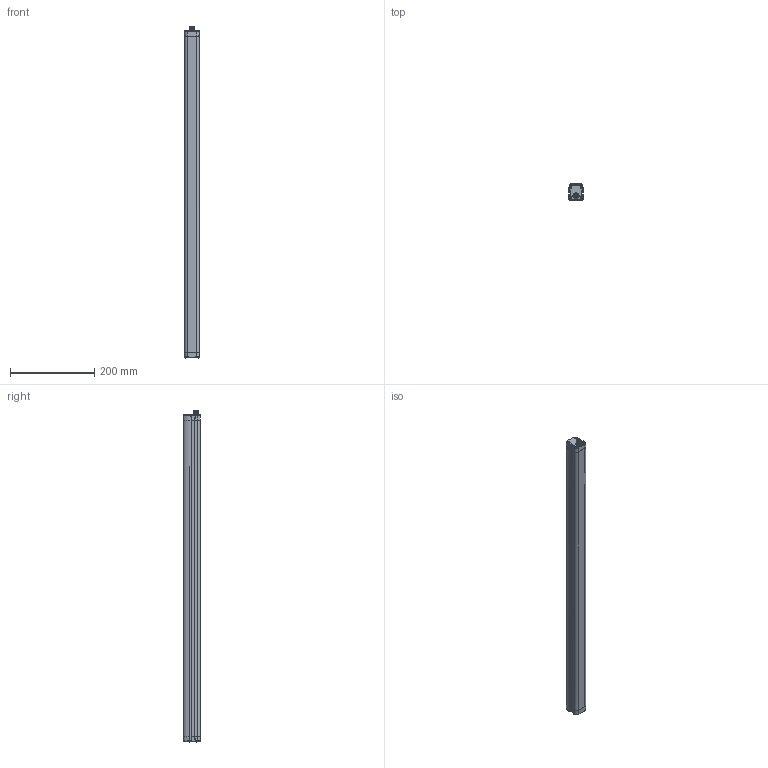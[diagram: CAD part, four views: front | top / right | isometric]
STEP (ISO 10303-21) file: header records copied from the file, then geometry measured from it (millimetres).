
FILE_DESCRIPTION(/* description */ (''),/* implementation_level */ '2;1');
FILE_NAME(/* name */ 'DSD-0984 DS2-05-07-075-JE _TX_STP.stp',/* time_stamp */ '2020-07-02T12:15:15+02:00',/* author */ (''),/* organization */ (''),/* preprocessor_version */ 'ST-DEVELOPER v16.7',/* originating_system */ 'SIEMENS PLM Software NX 12.0',/* authorisation */ '');
FILE_SCHEMA (('AUTOMOTIVE_DESIGN { 1 0 10303 214 3 1 1 1 }'));
Length unit declared in the file: millimetre
Products named in the file (1): fgut3BACA847u48e
Bounding box: 35 x 40.1 x 786.9 mm (x, y, z)
Volume: 946057.8 mm3; surface area: 154833.2 mm2
Topology: 4 solids, 5 shells, 745 faces, 1971 edges, 1243 vertices
Faces by surface type: plane 303, cylinder 208, bspline 132, cone 78, torus 18, sphere 6
Full cylindrical faces by diameter (mm): 1 x4, 3 x1, 3.8 x4, 4.2 x1, 5 x8, 6 x1, 6.8 x1, 8.3 x1, 10.4 x1, 10.55 x1, 12 x7, 14 x1, 14.5 x1
Entity records: 30622 total; most frequent: CARTESIAN_POINT 11114, ORIENTED_EDGE 3740, DIRECTION 2675, EDGE_CURVE 1870, VERTEX_POINT 1226, AXIS2_PLACEMENT_3D 1047, EDGE_LOOP 825, ADVANCED_FACE 736
